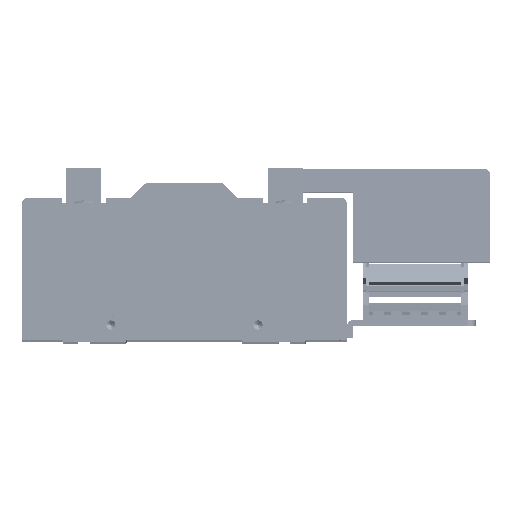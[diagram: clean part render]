
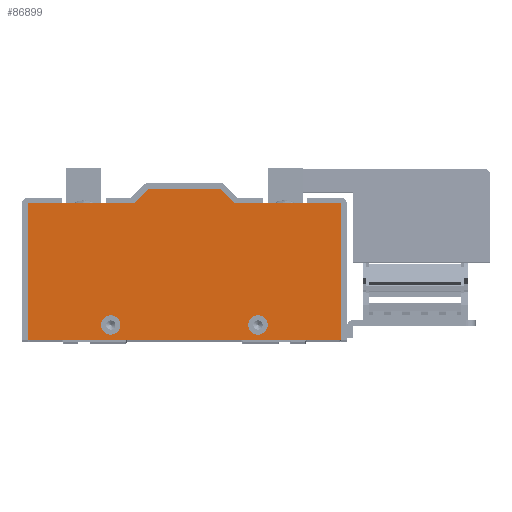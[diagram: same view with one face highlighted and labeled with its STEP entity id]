
A CAD part, top view. The second image highlights one B-rep face of the part: STEP entity #86899.
In plain terms, the highlighted planar face has unit normal (0, 0, 1).
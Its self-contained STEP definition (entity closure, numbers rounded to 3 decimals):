
#36867 = DIRECTION ( 'NONE',  ( 0., 0., 1. ) ) ;
#36888 = DIRECTION ( 'NONE',  ( 1., 0., 0. ) ) ;
#37016 = CIRCLE ( 'NONE', #37073, 5.25 ) ;
#37017 = DIRECTION ( 'NONE',  ( -1., 0., 0. ) ) ;
#37018 = VECTOR ( 'NONE', #37017, 1000. ) ;
#37019 = CARTESIAN_POINT ( 'NONE',  ( 27.5, 37., 9.525 ) ) ;
#37020 = LINE ( 'NONE', #37019, #37018 ) ;
#37072 = CARTESIAN_POINT ( 'NONE',  ( -40., -29., 9.525 ) ) ;
#37073 = AXIS2_PLACEMENT_3D ( 'NONE', #37072, #36867, #36888 ) ;
#38650 = CARTESIAN_POINT ( 'NONE',  ( -34.75, -29., 9.525 ) ) ;
#39018 = CARTESIAN_POINT ( 'NONE',  ( 34.75, -29., 9.525 ) ) ;
#39020 = CIRCLE ( 'NONE', #39029, 5.25 ) ;
#39021 = CARTESIAN_POINT ( 'NONE',  ( 45.25, -29., 9.525 ) ) ;
#39026 = DIRECTION ( 'NONE',  ( 1., 0., 0. ) ) ;
#39027 = DIRECTION ( 'NONE',  ( 0., 0., 1. ) ) ;
#39028 = CARTESIAN_POINT ( 'NONE',  ( 40., -29., 9.525 ) ) ;
#39029 = AXIS2_PLACEMENT_3D ( 'NONE', #39028, #39027, #39026 ) ;
#77713 = DIRECTION ( 'NONE',  ( -0.707, 0.707, 0. ) ) ;
#77715 = VECTOR ( 'NONE', #77713, 1000. ) ;
#77717 = CARTESIAN_POINT ( 'NONE',  ( 19.5, 45., 9.525 ) ) ;
#77719 = LINE ( 'NONE', #77717, #77715 ) ;
#77742 = CARTESIAN_POINT ( 'NONE',  ( 19.5, 45., 9.525 ) ) ;
#78258 = CARTESIAN_POINT ( 'NONE',  ( -19.5, 45., 9.525 ) ) ;
#78276 = DIRECTION ( 'NONE',  ( -1., 0., 0. ) ) ;
#78277 = VECTOR ( 'NONE', #78276, 1000. ) ;
#78279 = CARTESIAN_POINT ( 'NONE',  ( -19.5, 45., 9.525 ) ) ;
#78281 = LINE ( 'NONE', #78279, #78277 ) ;
#78612 = DIRECTION ( 'NONE',  ( -0.707, -0.707, 0. ) ) ;
#78614 = VECTOR ( 'NONE', #78612, 1000. ) ;
#78633 = CARTESIAN_POINT ( 'NONE',  ( -27.5, 37., 9.525 ) ) ;
#78634 = LINE ( 'NONE', #78633, #78614 ) ;
#78701 = CARTESIAN_POINT ( 'NONE',  ( -27.5, 37., 9.525 ) ) ;
#80343 = DIRECTION ( 'NONE',  ( 1., 0., 0. ) ) ;
#80344 = DIRECTION ( 'NONE',  ( 0., 0., 1. ) ) ;
#80345 = CARTESIAN_POINT ( 'NONE',  ( -85., 37., 9.525 ) ) ;
#80379 = PLANE ( 'NONE',  #80384 ) ;
#80384 = AXIS2_PLACEMENT_3D ( 'NONE', #80345, #80344, #80343 ) ;
#80385 = FACE_OUTER_BOUND ( 'NONE', #86940, .T. ) ;
#80386 = FACE_BOUND ( 'NONE', #86911, .T. ) ;
#80387 = FACE_BOUND ( 'NONE', #86901, .T. ) ;
#80388 = DIRECTION ( 'NONE',  ( -1., 0., 0. ) ) ;
#80389 = VECTOR ( 'NONE', #80388, 1000. ) ;
#80390 = CARTESIAN_POINT ( 'NONE',  ( -85., 37., 9.525 ) ) ;
#80391 = LINE ( 'NONE', #80390, #80389 ) ;
#80393 = DIRECTION ( 'NONE',  ( 1., 0., 0. ) ) ;
#80394 = DIRECTION ( 'NONE',  ( 0., 0., 1. ) ) ;
#80395 = CARTESIAN_POINT ( 'NONE',  ( -40., -29., 9.525 ) ) ;
#80396 = AXIS2_PLACEMENT_3D ( 'NONE', #80395, #80394, #80393 ) ;
#80397 = CIRCLE ( 'NONE', #80396, 5.25 ) ;
#80564 = DIRECTION ( 'NONE',  ( 1., 0., 0. ) ) ;
#80565 = DIRECTION ( 'NONE',  ( 0., 0., 1. ) ) ;
#80590 = CARTESIAN_POINT ( 'NONE',  ( -45.25, -29., 9.525 ) ) ;
#80676 = AXIS2_PLACEMENT_3D ( 'NONE', #80683, #80565, #80564 ) ;
#80677 = CIRCLE ( 'NONE', #80676, 5.25 ) ;
#80683 = CARTESIAN_POINT ( 'NONE',  ( 40., -29., 9.525 ) ) ;
#80685 = CARTESIAN_POINT ( 'NONE',  ( 27.5, 37., 9.525 ) ) ;
#80996 = VECTOR ( 'NONE', #81058, 1000. ) ;
#81054 = LINE ( 'NONE', #81060, #80996 ) ;
#81056 = CARTESIAN_POINT ( 'NONE',  ( 85., 37., 9.525 ) ) ;
#81058 = DIRECTION ( 'NONE',  ( 0., 1., 0. ) ) ;
#81060 = CARTESIAN_POINT ( 'NONE',  ( 85., 37., 9.525 ) ) ;
#81287 = DIRECTION ( 'NONE',  ( 0., -1., 0. ) ) ;
#81288 = VECTOR ( 'NONE', #81287, 1000. ) ;
#81291 = CARTESIAN_POINT ( 'NONE',  ( -85., 37., 9.525 ) ) ;
#81292 = LINE ( 'NONE', #81291, #81288 ) ;
#81394 = DIRECTION ( 'NONE',  ( 1., 0., 0. ) ) ;
#81395 = VECTOR ( 'NONE', #81394, 1000. ) ;
#81397 = CARTESIAN_POINT ( 'NONE',  ( -85., -37., 9.525 ) ) ;
#81398 = LINE ( 'NONE', #81397, #81395 ) ;
#81401 = CARTESIAN_POINT ( 'NONE',  ( 85., -37., 9.525 ) ) ;
#81456 = CARTESIAN_POINT ( 'NONE',  ( -85., -37., 9.525 ) ) ;
#81497 = CARTESIAN_POINT ( 'NONE',  ( -85., 37., 9.525 ) ) ;
#86763 = EDGE_CURVE ( 'NONE', #87015, #86932, #37020, .T. ) ;
#86764 = EDGE_CURVE ( 'NONE', #86988, #86765, #37016, .T. ) ;
#86765 = VERTEX_POINT ( 'NONE', #38650 ) ;
#86792 = VERTEX_POINT ( 'NONE', #39018 ) ;
#86794 = EDGE_CURVE ( 'NONE', #86792, #86795, #39020, .T. ) ;
#86795 = VERTEX_POINT ( 'NONE', #39021 ) ;
#86814 = VERTEX_POINT ( 'NONE', #77742 ) ;
#86818 = EDGE_CURVE ( 'NONE', #86932, #86814, #77719, .T. ) ;
#86836 = VERTEX_POINT ( 'NONE', #78258 ) ;
#86839 = EDGE_CURVE ( 'NONE', #86814, #86836, #78281, .T. ) ;
#86861 = VERTEX_POINT ( 'NONE', #78701 ) ;
#86865 = EDGE_CURVE ( 'NONE', #86836, #86861, #78634, .T. ) ;
#86895 = EDGE_CURVE ( 'NONE', #86861, #87046, #80391, .T. ) ;
#86899 = ADVANCED_FACE ( 'NONE', ( #80387, #80386, #80385 ), #80379, .T. ) ;
#86901 = EDGE_LOOP ( 'NONE', ( #86905, #86910 ) ) ;
#86905 = ORIENTED_EDGE ( 'NONE', *, *, #86907, .F. ) ;
#86907 = EDGE_CURVE ( 'NONE', #86765, #86988, #80397, .T. ) ;
#86910 = ORIENTED_EDGE ( 'NONE', *, *, #86764, .F. ) ;
#86911 = EDGE_LOOP ( 'NONE', ( #86934, #86939 ) ) ;
#86932 = VERTEX_POINT ( 'NONE', #80685 ) ;
#86934 = ORIENTED_EDGE ( 'NONE', *, *, #86936, .F. ) ;
#86936 = EDGE_CURVE ( 'NONE', #86795, #86792, #80677, .T. ) ;
#86939 = ORIENTED_EDGE ( 'NONE', *, *, #86794, .F. ) ;
#86940 = EDGE_LOOP ( 'NONE', ( #86941, #86942, #86943, #86944, #86945, #86948, #86949, #86952 ) ) ;
#86941 = ORIENTED_EDGE ( 'NONE', *, *, #87045, .T. ) ;
#86942 = ORIENTED_EDGE ( 'NONE', *, *, #87062, .T. ) ;
#86943 = ORIENTED_EDGE ( 'NONE', *, *, #87017, .T. ) ;
#86944 = ORIENTED_EDGE ( 'NONE', *, *, #86763, .T. ) ;
#86945 = ORIENTED_EDGE ( 'NONE', *, *, #86818, .T. ) ;
#86948 = ORIENTED_EDGE ( 'NONE', *, *, #86839, .T. ) ;
#86949 = ORIENTED_EDGE ( 'NONE', *, *, #86865, .T. ) ;
#86952 = ORIENTED_EDGE ( 'NONE', *, *, #86895, .T. ) ;
#86988 = VERTEX_POINT ( 'NONE', #80590 ) ;
#87015 = VERTEX_POINT ( 'NONE', #81056 ) ;
#87017 = EDGE_CURVE ( 'NONE', #87058, #87015, #81054, .T. ) ;
#87043 = VERTEX_POINT ( 'NONE', #81456 ) ;
#87045 = EDGE_CURVE ( 'NONE', #87046, #87043, #81292, .T. ) ;
#87046 = VERTEX_POINT ( 'NONE', #81497 ) ;
#87058 = VERTEX_POINT ( 'NONE', #81401 ) ;
#87062 = EDGE_CURVE ( 'NONE', #87043, #87058, #81398, .T. ) ;
